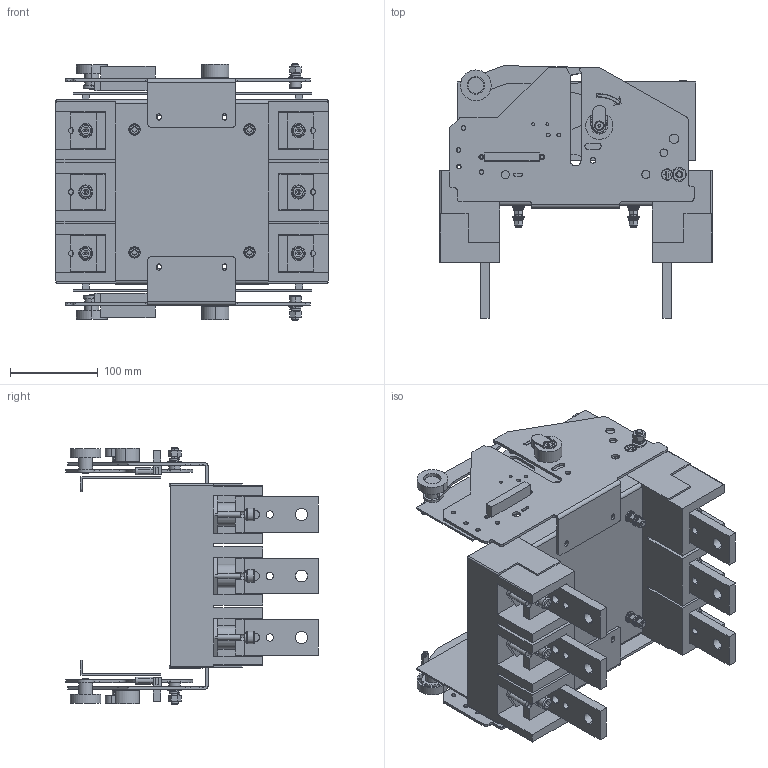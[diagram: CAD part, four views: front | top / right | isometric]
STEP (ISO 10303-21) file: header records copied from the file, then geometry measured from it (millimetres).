
FILE_DESCRIPTION (( 'STEP AP214' ), '1' );
FILE_NAME ('Êîðçèíà âûêàòíàÿ TEM5E-800 3P.STEP', '2026-07-06T07:07:32', ( '' ), ( '' ), 'SwSTEP 2.0', 'SolidWorks 2024', '' );
FILE_SCHEMA (( 'AUTOMOTIVE_DESIGN' ));
Length unit declared in the file: millimetre
Products named in the file (3): крепления — копия; Корзина выкатная TEM5E-800 3P
Assembly tree (5 placements, depth 2):
  Корзина выкатная TEM5E-800 3P
    Корзина выкатная TEM5E-800 3P
    крепления — копия  x4
Bounding box: 310 x 287.38 x 292 mm (x, y, z)
Volume: 3072265.5 mm3; surface area: 877593 mm2
Topology: 81 solids, 99 shells, 2489 faces, 6298 edges, 4147 vertices
Faces by surface type: plane 1268, cylinder 847, bspline 306, cone 60, torus 8
Entity records: 86589 total; most frequent: CARTESIAN_POINT 26479, ORIENTED_EDGE 12470, DIRECTION 11806, EDGE_CURVE 6235, VERTEX_POINT 4105, AXIS2_PLACEMENT_3D 4069, VECTOR 3668, LINE 3668
